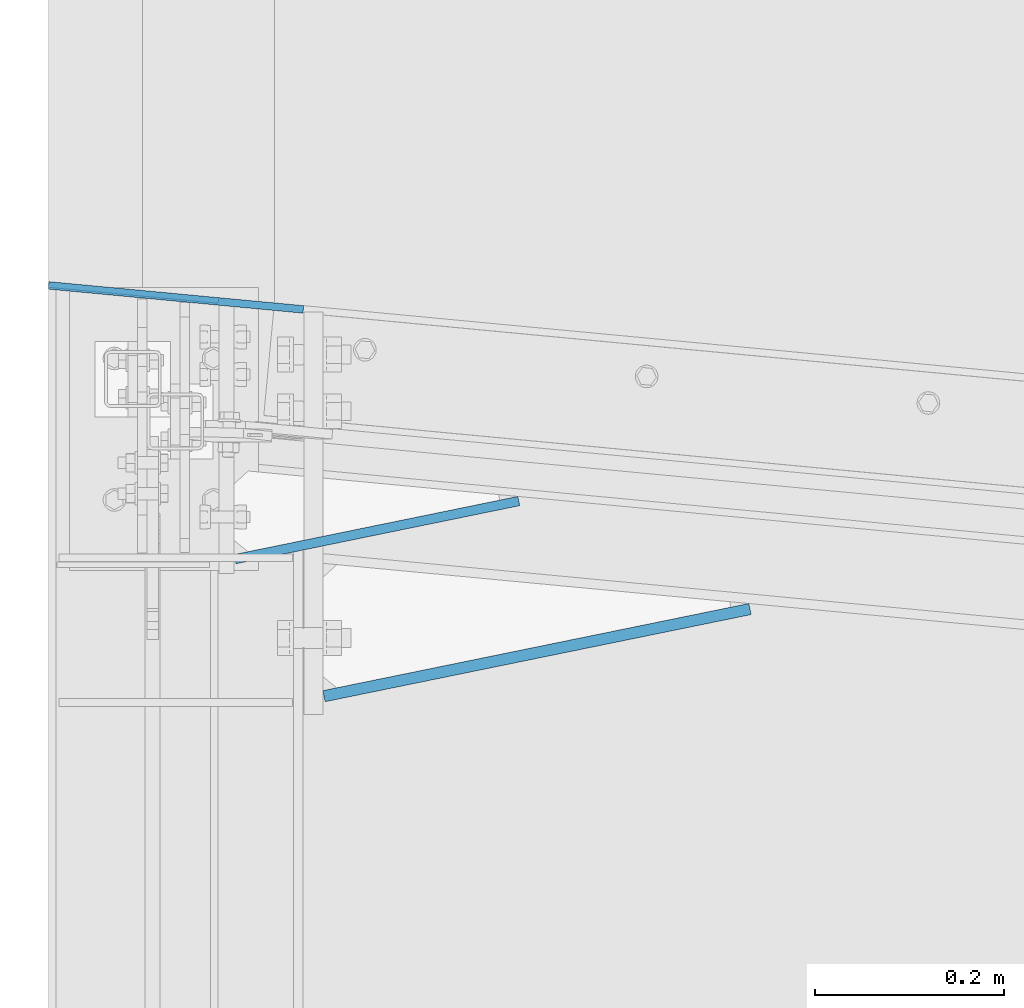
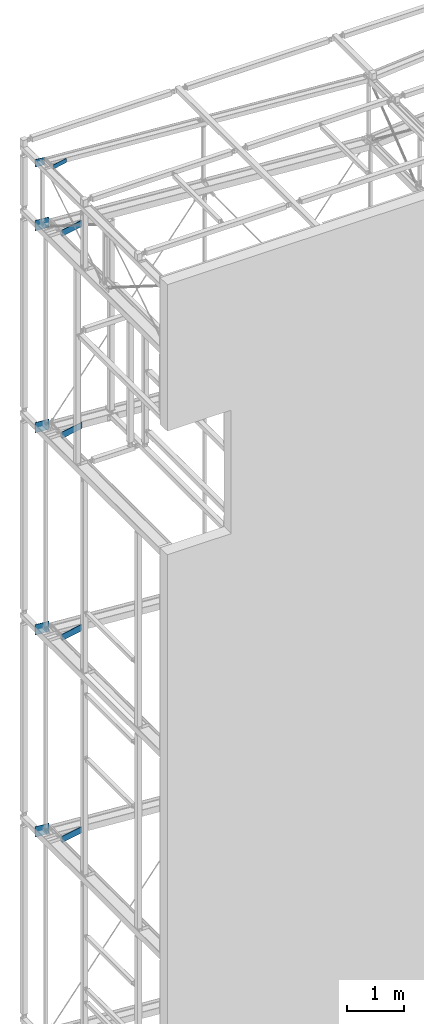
# One storey, part 75 of 271: 10 beams, 10 elements without a shape of their own.
"""IFC2X3 building model written with IfcOpenShell, lengths in millimetres."""

from ifc_helpers import new_model, si_unit, frame, origin_with_axes, origin_2d_with_axis, place, context, subcontext, project, spatial, rectangle, extrude, material, type_object, element, aggregate, save


model = new_model("IFC2X3")

# Units and contexts
model_context = context("Model", 3, precision=1e-05, world=origin_with_axes())
body_context = subcontext(model_context, "Body", "Model", "MODEL_VIEW")
ifc_project = project(units=[si_unit("LENGTHUNIT", "METRE", prefix="MILLI"), si_unit("AREAUNIT", "SQUARE_METRE"), si_unit("VOLUMEUNIT", "CUBIC_METRE"), si_unit("MASSUNIT", "GRAM", prefix="KILO"), si_unit("TIMEUNIT", "SECOND"), si_unit("PLANEANGLEUNIT", "RADIAN"), si_unit("SOLIDANGLEUNIT", "STERADIAN"), si_unit("THERMODYNAMICTEMPERATUREUNIT", "DEGREE_CELSIUS"), si_unit("LUMINOUSINTENSITYUNIT", "LUMEN")], contexts=[model_context])

# Site, building, storey
site_placement = place(None, origin_with_axes())
site = spatial("IfcSite", under=ifc_project, at=site_placement, Name="Undefined", CompositionType="ELEMENT")
building_placement = place(site_placement, origin_with_axes())
building = spatial("IfcBuilding", under=site, at=building_placement, Name="Undefined", CompositionType="ELEMENT")
storey_placement = place(building_placement, origin_with_axes())
storey = spatial("IfcBuildingStorey", under=building, at=storey_placement, Name="Undefined", CompositionType="ELEMENT", Elevation=0.0)

# Assembly, beam
assembly_1_placement = place(storey_placement, origin_with_axes())
assembly_1 = element("IfcElementAssembly", 1, at=assembly_1_placement, inside=storey, AssemblyPlace="NOTDEFINED", PredefinedType="RIGID_FRAME")
ifc_material = material(Name="STEEL/S355JR")
beam_type_1 = type_object("IfcBeamType", Name="BL10*91", PredefinedType="NOTDEFINED")
beam_1_placement = place(assembly_1_placement, frame((186.379388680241, 4146.24146736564, 20004.3499999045), z_axis=(0.0, 0.0, 1.0), x_axis=(0.979644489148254, 0.200740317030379, 0.0)))
beam_1 = element("IfcBeam", 2, at=beam_1_placement, type_object=beam_type_1, material=ifc_material, Name="BLACHA", ObjectType="BL10*91", context=body_context, shape_type="SweptSolid", body=[
    extrude(rectangle(XDim=10.0, YDim=91.0, at=origin_2d_with_axis()), frame((306.999999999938, 0.0, 3.63797880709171e-12), z_axis=(-1.0, 0.0, 1.38777878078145e-17), x_axis=(0.0, -1.0, 0.0)), (0.0, 0.0, 1.0), 307.0),
])
aggregate(assembly_1, [beam_1])

assembly_2_placement = place(storey_placement, origin_with_axes())
assembly_2 = element("IfcElementAssembly", 3, at=assembly_2_placement, inside=storey, AssemblyPlace="NOTDEFINED", PredefinedType="RIGID_FRAME")
beam_type_2 = type_object("IfcBeamType", Name="BL6*160", PredefinedType="NOTDEFINED")
beam_2_placement = place(assembly_2_placement, frame((-11.3425451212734, 4437.48391578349, 19974.3499999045), z_axis=(0.0, 0.0, 1.0), x_axis=(0.995579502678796, -0.0939225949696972, 0.0)))
beam_2 = element("IfcBeam", 4, at=beam_2_placement, type_object=beam_type_2, material=ifc_material, Name="BLACHA", ObjectType="BL6*160", context=body_context, shape_type="SweptSolid", body=[
    extrude(rectangle(XDim=6.0, YDim=160.0, at=origin_2d_with_axis()), frame((180.799222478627, 0.0, 3.63797880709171e-12), z_axis=(-1.0, 0.0, 1.38777878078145e-17), x_axis=(0.0, -1.0, 0.0)), (0.0, 0.0, 1.0), 180.8),
])
aggregate(assembly_2, [beam_2])

assembly_3_placement = place(storey_placement, origin_with_axes())
assembly_3 = element("IfcElementAssembly", 5, at=assembly_3_placement, inside=storey, AssemblyPlace="NOTDEFINED", PredefinedType="RIGID_FRAME")
beam_type_3 = type_object("IfcBeamType", Name="BL12*135", PredefinedType="NOTDEFINED")
beam_3_placement = place(assembly_3_placement, frame((280.578183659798, 4000.99388878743, 18644.3499999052), z_axis=(0.0, 0.0, 1.0), x_axis=(0.979710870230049, 0.20041609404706, 0.0)))
beam_3 = element("IfcBeam", 6, at=beam_3_placement, type_object=beam_type_3, material=ifc_material, Name="BLACHA", ObjectType="BL12*135", context=body_context, shape_type="SweptSolid", body=[
    extrude(rectangle(XDim=12.0, YDim=135.0, at=origin_2d_with_axis()), frame((460.999999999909, 0.0, 9.09494701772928e-13), z_axis=(-1.0, 0.0, 1.38777878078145e-17), x_axis=(0.0, -1.0, 0.0)), (0.0, 0.0, 1.0), 461.0),
])
aggregate(assembly_3, [beam_3])

assembly_4_placement = place(storey_placement, origin_with_axes())
assembly_4 = element("IfcElementAssembly", 7, at=assembly_4_placement, inside=storey, AssemblyPlace="NOTDEFINED", PredefinedType="RIGID_FRAME")
beam_4_placement = place(assembly_4_placement, frame((280.578183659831, 4000.99388878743, 14324.3499999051), z_axis=(0.0, 0.0, 1.0), x_axis=(0.979710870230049, 0.20041609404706, 0.0)))
beam_4 = element("IfcBeam", 8, at=beam_4_placement, type_object=beam_type_3, material=ifc_material, Name="BLACHA", ObjectType="BL12*135", context=body_context, shape_type="SweptSolid", body=[
    extrude(rectangle(XDim=12.0, YDim=135.0, at=origin_2d_with_axis()), frame((460.999999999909, 0.0, 9.09494701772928e-13), z_axis=(-1.0, 0.0, 1.38777878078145e-17), x_axis=(0.0, -1.0, 0.0)), (0.0, 0.0, 1.0), 461.0),
])
aggregate(assembly_4, [beam_4])

assembly_5_placement = place(storey_placement, origin_with_axes())
assembly_5 = element("IfcElementAssembly", 9, at=assembly_5_placement, inside=storey, AssemblyPlace="NOTDEFINED", PredefinedType="RIGID_FRAME")
beam_5_placement = place(assembly_5_placement, frame((280.578183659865, 4000.99388878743, 10004.3499999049), z_axis=(0.0, 0.0, 1.0), x_axis=(0.979710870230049, 0.20041609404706, 0.0)))
beam_5 = element("IfcBeam", 10, at=beam_5_placement, type_object=beam_type_3, material=ifc_material, Name="BLACHA", ObjectType="BL12*135", context=body_context, shape_type="SweptSolid", body=[
    extrude(rectangle(XDim=12.0, YDim=135.0, at=origin_2d_with_axis()), frame((460.999999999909, 0.0, 9.09494701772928e-13), z_axis=(-1.0, 0.0, 1.38777878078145e-17), x_axis=(0.0, -1.0, 0.0)), (0.0, 0.0, 1.0), 461.0),
])
aggregate(assembly_5, [beam_5])

assembly_6_placement = place(storey_placement, origin_with_axes())
assembly_6 = element("IfcElementAssembly", 11, at=assembly_6_placement, inside=storey, AssemblyPlace="NOTDEFINED", PredefinedType="RIGID_FRAME")
beam_6_placement = place(assembly_6_placement, frame((280.578183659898, 4000.99388878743, 5684.3499999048), z_axis=(0.0, 0.0, 1.0), x_axis=(0.979710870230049, 0.20041609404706, 0.0)))
beam_6 = element("IfcBeam", 12, at=beam_6_placement, type_object=beam_type_3, material=ifc_material, Name="BLACHA", ObjectType="BL12*135", context=body_context, shape_type="SweptSolid", body=[
    extrude(rectangle(XDim=12.0, YDim=135.0, at=origin_2d_with_axis()), frame((460.999999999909, 0.0, 9.09494701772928e-13), z_axis=(-1.0, 0.0, 1.38777878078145e-17), x_axis=(0.0, -1.0, 0.0)), (0.0, 0.0, 1.0), 461.0),
])
aggregate(assembly_6, [beam_6])

assembly_7_placement = place(storey_placement, origin_with_axes())
assembly_7 = element("IfcElementAssembly", 13, at=assembly_7_placement, inside=storey, AssemblyPlace="NOTDEFINED", PredefinedType="RIGID_FRAME")
beam_type_4 = type_object("IfcBeamType", Name="BL8*220", PredefinedType="NOTDEFINED")
beam_7_placement = place(assembly_7_placement, frame((-11.2486225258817, 4436.4706150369, 18644.3499999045), z_axis=(0.0, 0.0, 1.0), x_axis=(0.995579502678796, -0.0939225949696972, 0.0)))
beam_7 = element("IfcBeam", 14, at=beam_7_placement, type_object=beam_type_4, material=ifc_material, Name="BLACHA", ObjectType="BL8*220", context=body_context, shape_type="SweptSolid", body=[
    extrude(rectangle(XDim=8.0, YDim=220.0, at=origin_2d_with_axis()), frame((271.198833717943, 0.0, 9.09494701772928e-13), z_axis=(-1.0, 0.0, 1.38777878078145e-17), x_axis=(0.0, -1.0, 0.0)), (0.0, 0.0, 1.0), 271.2),
])
aggregate(assembly_7, [beam_7])

assembly_8_placement = place(storey_placement, origin_with_axes())
assembly_8 = element("IfcElementAssembly", 15, at=assembly_8_placement, inside=storey, AssemblyPlace="NOTDEFINED", PredefinedType="RIGID_FRAME")
beam_8_placement = place(assembly_8_placement, frame((-11.2486225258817, 4436.4706150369, 14324.3499999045), z_axis=(0.0, 0.0, 1.0), x_axis=(0.995579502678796, -0.0939225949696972, 0.0)))
beam_8 = element("IfcBeam", 16, at=beam_8_placement, type_object=beam_type_4, material=ifc_material, Name="BLACHA", ObjectType="BL8*220", context=body_context, shape_type="SweptSolid", body=[
    extrude(rectangle(XDim=8.0, YDim=220.0, at=origin_2d_with_axis()), frame((271.198833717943, 0.0, 9.09494701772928e-13), z_axis=(-1.0, 0.0, 1.38777878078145e-17), x_axis=(0.0, -1.0, 0.0)), (0.0, 0.0, 1.0), 271.2),
])
aggregate(assembly_8, [beam_8])

assembly_9_placement = place(storey_placement, origin_with_axes())
assembly_9 = element("IfcElementAssembly", 17, at=assembly_9_placement, inside=storey, AssemblyPlace="NOTDEFINED", PredefinedType="RIGID_FRAME")
beam_9_placement = place(assembly_9_placement, frame((-11.2486225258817, 4436.4706150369, 10004.3499999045), z_axis=(0.0, 0.0, 1.0), x_axis=(0.995579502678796, -0.0939225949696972, 0.0)))
beam_9 = element("IfcBeam", 18, at=beam_9_placement, type_object=beam_type_4, material=ifc_material, Name="BLACHA", ObjectType="BL8*220", context=body_context, shape_type="SweptSolid", body=[
    extrude(rectangle(XDim=8.0, YDim=220.0, at=origin_2d_with_axis()), frame((271.198833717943, 0.0, 9.09494701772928e-13), z_axis=(-1.0, 0.0, 1.38777878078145e-17), x_axis=(0.0, -1.0, 0.0)), (0.0, 0.0, 1.0), 271.2),
])
aggregate(assembly_9, [beam_9])

assembly_10_placement = place(storey_placement, origin_with_axes())
assembly_10 = element("IfcElementAssembly", 19, at=assembly_10_placement, inside=storey, AssemblyPlace="NOTDEFINED", PredefinedType="RIGID_FRAME")
beam_10_placement = place(assembly_10_placement, frame((-11.2486225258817, 4436.4706150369, 5684.34999990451), z_axis=(0.0, 0.0, 1.0), x_axis=(0.995579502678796, -0.0939225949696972, 0.0)))
beam_10 = element("IfcBeam", 20, at=beam_10_placement, type_object=beam_type_4, material=ifc_material, Name="BLACHA", ObjectType="BL8*220", context=body_context, shape_type="SweptSolid", body=[
    extrude(rectangle(XDim=8.0, YDim=220.0, at=origin_2d_with_axis()), frame((271.198833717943, 0.0, 9.09494701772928e-13), z_axis=(-1.0, 0.0, 1.38777878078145e-17), x_axis=(0.0, -1.0, 0.0)), (0.0, 0.0, 1.0), 271.2),
])
aggregate(assembly_10, [beam_10])

save(model, "model.ifc")
